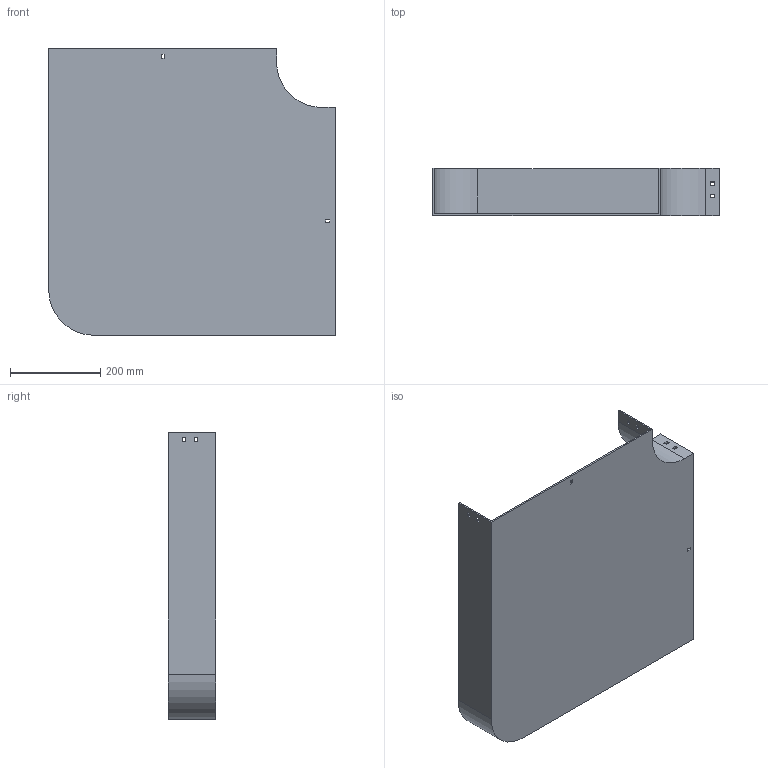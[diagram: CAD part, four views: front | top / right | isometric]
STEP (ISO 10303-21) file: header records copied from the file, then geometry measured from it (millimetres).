
FILE_DESCRIPTION (( 'STEP AP214' ), '1' );
FILE_NAME ('10F1D500.step', '2025-02-21T12:56:41', ( '' ), ( '' ), 'SwSTEP 2.0', 'SolidWorks 2023', '' );
FILE_SCHEMA (( 'AUTOMOTIVE_DESIGN' ));
Length unit declared in the file: millimetre
Products named in the file (1): 10F1D500
Bounding box: 634 x 104 x 634 mm (x, y, z)
Volume: 1852606 mm3; surface area: 1069783.6 mm2
Topology: 1 solids, 1 shells, 58 faces, 168 edges, 112 vertices
Faces by surface type: plane 54, cylinder 4
Entity records: 1943 total; most frequent: CARTESIAN_POINT 339, ORIENTED_EDGE 336, DIRECTION 294, EDGE_CURVE 168, LINE 160, VECTOR 160, VERTEX_POINT 112, EDGE_LOOP 78
